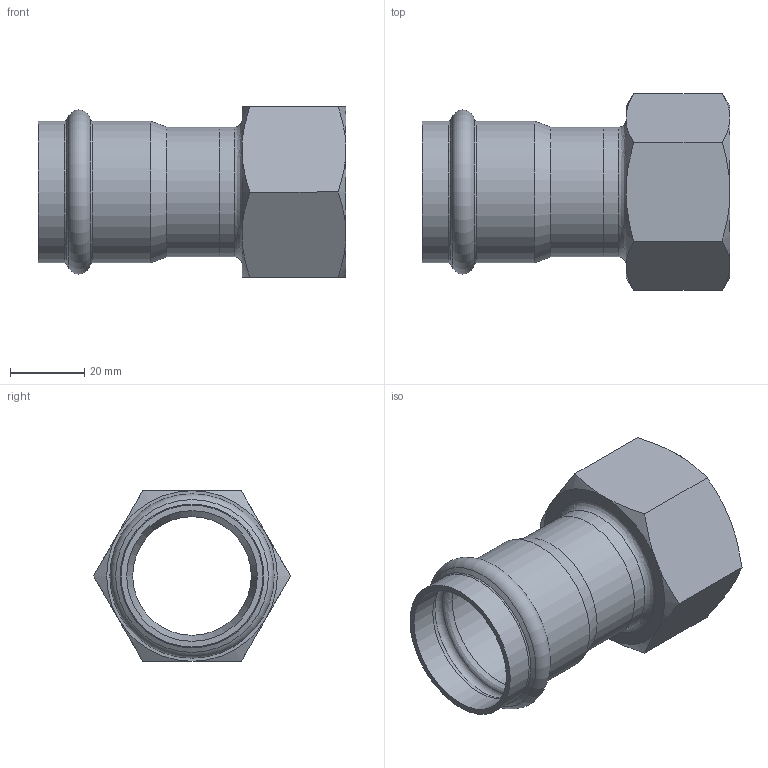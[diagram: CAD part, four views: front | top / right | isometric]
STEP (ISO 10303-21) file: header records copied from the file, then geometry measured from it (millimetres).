
FILE_DESCRIPTION((''),'2;1');
FILE_NAME('G:\Nirosan-Schmiedefeld\Technics\CAD\001 Serie 9.000\035\69270G35114H(1).stp','2017-10-23T13:13:50',('herberg'),(''),'Autodesk Inventor 2009','Autodesk Inventor 2009','');
FILE_SCHEMA(('AUTOMOTIVE_DESIGN { 1 0 10303 214 1 1 1 1 }'));
Length unit declared in the file: millimetre
Products named in the file (3): 69270G35114H(1); HM_69270G35(1); IG35114(1)
Assembly tree (2 placements, depth 2):
  69270G35114H(1)
    HM_69270G35(1)
    IG35114(1)
Bounding box: 83 x 53.12 x 46 mm (x, y, z)
Volume: 29206.7 mm3; surface area: 23030.5 mm2
Topology: 2 solids, 2 shells, 45 faces, 92 edges, 53 vertices
Faces by surface type: cone 17, plane 11, bspline 8, cylinder 7, torus 2
Full cylindrical faces by diameter (mm): 32 x1, 35 x2, 35.25 x2, 38.25 x2
Entity records: 1324 total; most frequent: CARTESIAN_POINT 473, DIRECTION 166, ORIENTED_EDGE 136, AXIS2_PLACEMENT_3D 80, EDGE_LOOP 72, EDGE_CURVE 68, VERTEX_POINT 50, FACE_OUTER_BOUND 45
